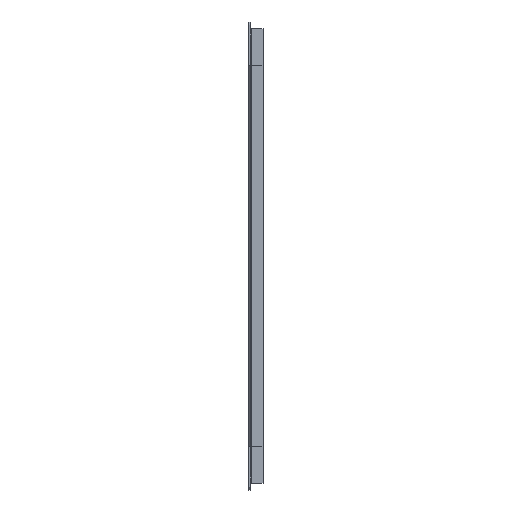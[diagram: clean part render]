
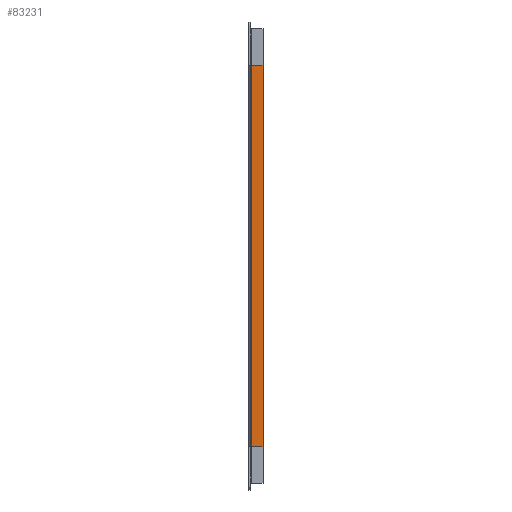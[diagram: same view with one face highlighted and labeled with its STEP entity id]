
A CAD part, left-side view. The second image highlights one B-rep face of the part: STEP entity #83231.
In plain terms, the highlighted planar face has unit normal (-1, 0, 0).
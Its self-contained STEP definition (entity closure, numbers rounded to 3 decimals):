
#82426=CARTESIAN_POINT(' ',(-99.5,-2.6,-203.5));
#82427=VERTEX_POINT(' ',#82426);
#82441=CARTESIAN_POINT(' ',(-99.5,-2.6,-203.5));
#82446=DIRECTION(' ',(0.,0.,1.));
#82451=VECTOR(' ',#82446,1.);
#82456=LINE('',#82441,#82451);
#82461=CARTESIAN_POINT(' ',(-99.5,-2.6,203.5));
#82462=VERTEX_POINT(' ',#82461);
#82466=EDGE_CURVE(' ',#82427,#82462,#82456,.T.);
#82791=CARTESIAN_POINT(' ',(-99.5,-15.,203.5));
#82796=DIRECTION(' ',(0.,1.,0.));
#82801=VECTOR(' ',#82796,1.);
#82806=LINE('',#82791,#82801);
#82811=CARTESIAN_POINT(' ',(-99.5,-15.,203.5));
#82812=VERTEX_POINT(' ',#82811);
#82816=EDGE_CURVE(' ',#82812,#82462,#82806,.T.);
#83076=CARTESIAN_POINT(' ',(-99.5,-15.,-203.5));
#83077=VERTEX_POINT(' ',#83076);
#83091=CARTESIAN_POINT(' ',(-99.5,-2.6,-203.5));
#83096=DIRECTION(' ',(0.,-1.,0.));
#83101=VECTOR(' ',#83096,1.);
#83106=LINE('',#83091,#83101);
#83111=EDGE_CURVE(' ',#82427,#83077,#83106,.T.);
#83151=DIRECTION(' ',(-1.,0.,-0.));
#83156=CARTESIAN_POINT(' ',(-99.5,-15.,-203.5));
#83161=DIRECTION(' ',(-0.,0.,1.));
#83166=AXIS2_PLACEMENT_3D(' ',#83156,#83151,#83161);
#83171=PLANE('NONE',#83166);
#83176=ORIENTED_EDGE(' ',*,*,#82466,.F.);
#83181=ORIENTED_EDGE(' ',*,*,#83111,.T.);
#83186=CARTESIAN_POINT(' ',(-99.5,-15.,-203.5));
#83191=DIRECTION(' ',(0.,0.,1.));
#83196=VECTOR(' ',#83191,1.);
#83201=LINE('',#83186,#83196);
#83206=EDGE_CURVE(' ',#83077,#82812,#83201,.T.);
#83211=ORIENTED_EDGE(' ',*,*,#83206,.T.);
#83216=ORIENTED_EDGE(' ',*,*,#82816,.T.);
#83221=EDGE_LOOP(' ',(#83176,#83181,#83211,#83216));
#83226=FACE_OUTER_BOUND(' ',#83221,.T.);
#83231=ADVANCED_FACE('NONE',(#83226),#83171,.T.);
